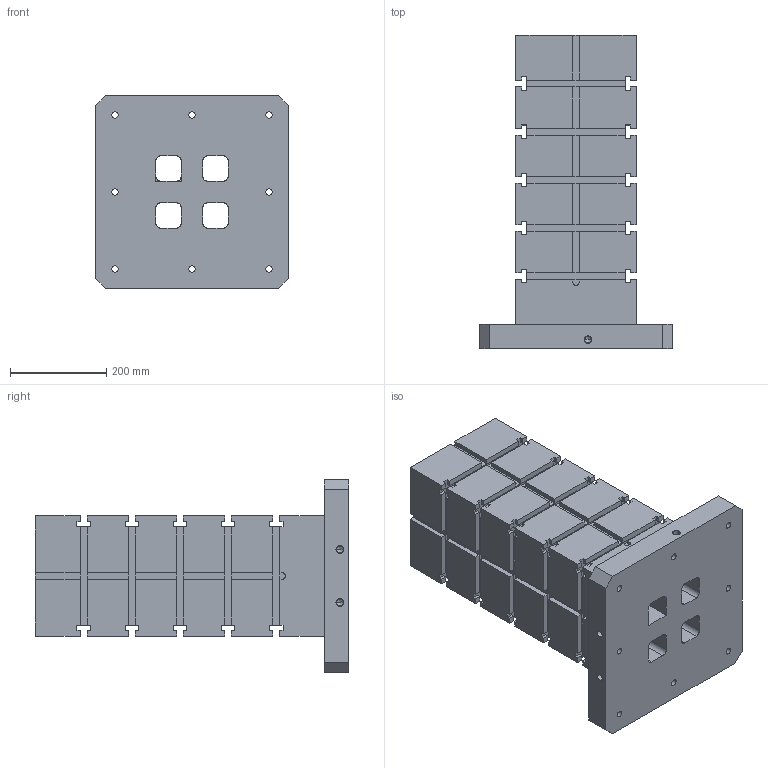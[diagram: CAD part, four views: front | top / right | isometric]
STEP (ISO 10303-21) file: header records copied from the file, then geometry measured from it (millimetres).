
FILE_DESCRIPTION((''),'2;1');
FILE_NAME('FG_WH_TOMB_SQTSLNP002','2026-05-19T16:25:50',('Admin'),(''),'CREO PARAMETRIC BY PTC INC, 2025010','CREO PARAMETRIC BY PTC INC, 2025010','');
FILE_SCHEMA(('CONFIG_CONTROL_DESIGN'));
Length unit declared in the file: millimetre
Products named in the file (1): FG_WH_TOMB_SQTSLNP002
Bounding box: 400 x 650 x 400 mm (x, y, z)
Volume: 26668469.8 mm3; surface area: 1880474.2 mm2
Topology: 1 solids, 4 shells, 599 faces, 1710 edges, 1137 vertices
Faces by surface type: plane 509, cylinder 84, cone 6
Entity records: 19346 total; most frequent: CARTESIAN_POINT 3441, ORIENTED_EDGE 3396, DIRECTION 3078, EDGE_CURVE 1704, VECTOR 1530, LINE 1530, VERTEX_POINT 1137, AXIS2_PLACEMENT_3D 774
